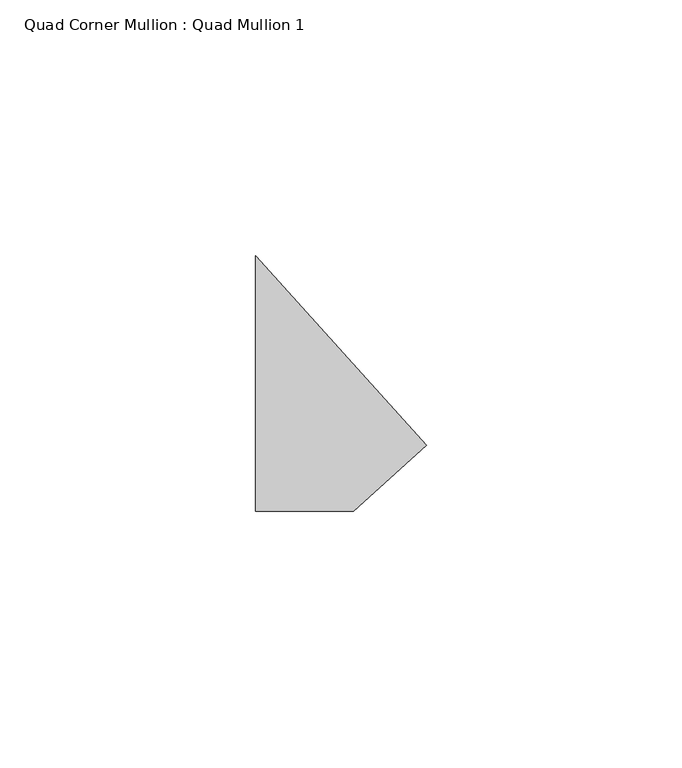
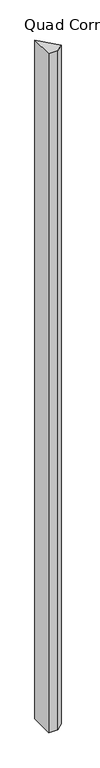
"""IFC4 building model written with IfcOpenShell, lengths in millimetres: member geometry, Quad Corner Mullion : Quad Mullion 1."""

from ifc_helpers import new_model, si_unit, frame, origin, place, context, project, spatial, polyline, outline, extrude, source, transform, mapped, element, save


def quad_corner_mullion_quad_mullion_1_6ea2e929(model_context):
    return source(origin(), model_context, "Body", "SweptSolid", [
        extrude(outline(polyline([(23.8599294, -12.1572413), (9.5966009, -25.0), (-9.5966009, -25.0), (-9.5966009, 25.0), (23.8599294, -12.1572413)])), frame((0.0, 0.0, -1500.0), z_axis=(0.0, 0.0, 1.0), x_axis=(1.0, 0.0, 0.0)), (0.0, 0.0, 1.0), 1500.0),
    ])


if __name__ == "__main__":
    model = new_model("IFC4")
    model_context = context("Model", 3, world=origin())
    ifc_project = project(units=[si_unit("LENGTHUNIT", "METRE", prefix="MILLI")], contexts=[model_context])
    site = spatial("IfcSite", under=ifc_project)
    building = spatial("IfcBuilding", under=site)
    placement = place(None, origin())
    quad_corner_mullion_quad_mullion_1_shape = quad_corner_mullion_quad_mullion_1_6ea2e929(model_context)
    element("IfcMember", 1, ObjectType="Quad Corner Mullion : Quad Mullion 1", at=placement, inside=building, context=model_context, shape_type="MappedRepresentation", body=[
        mapped(quad_corner_mullion_quad_mullion_1_shape, transform((0.0, 0.0, 0.0), x_axis=(1.0, 0.0, 0.0), y_axis=(0.0, 1.0, 0.0), z_axis=(0.0, 0.0, 1.0))),
    ])
    save(model, "model.ifc")
